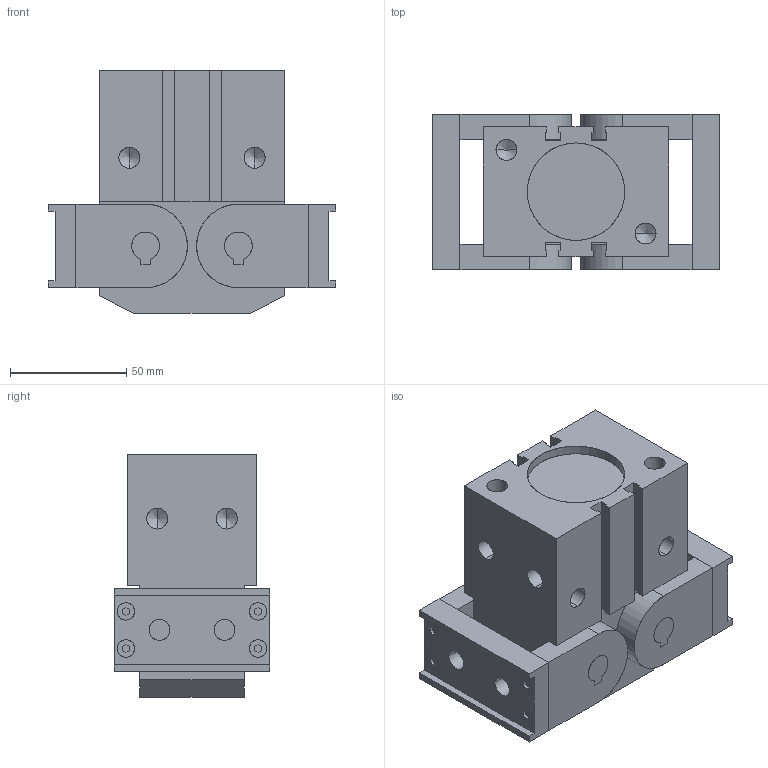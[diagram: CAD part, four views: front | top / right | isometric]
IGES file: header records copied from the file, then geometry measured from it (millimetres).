
Start section: SolidWorks IGES file using analytic representation for surfaces
Global section: file name: C:\Documents and Settings\1EDPI\Mes documents\Kevin 17.01.13\ghk\ghk40\GHK 40 open.IGS; native system: SolidWorks 2010; preprocessor: SolidWorks 2010; author: 1EDPI; date: 130304.105214; units: millimetre
Bounding box: 124 x 67 x 104.5 mm (x, y, z)
Surface area: 83443.7 mm2 (no closed solid volume)
Topology: 0 solids, 0 shells, 275 faces, 3468 edges, 3448 vertices
Faces by surface type: bspline 189, revolution 86
